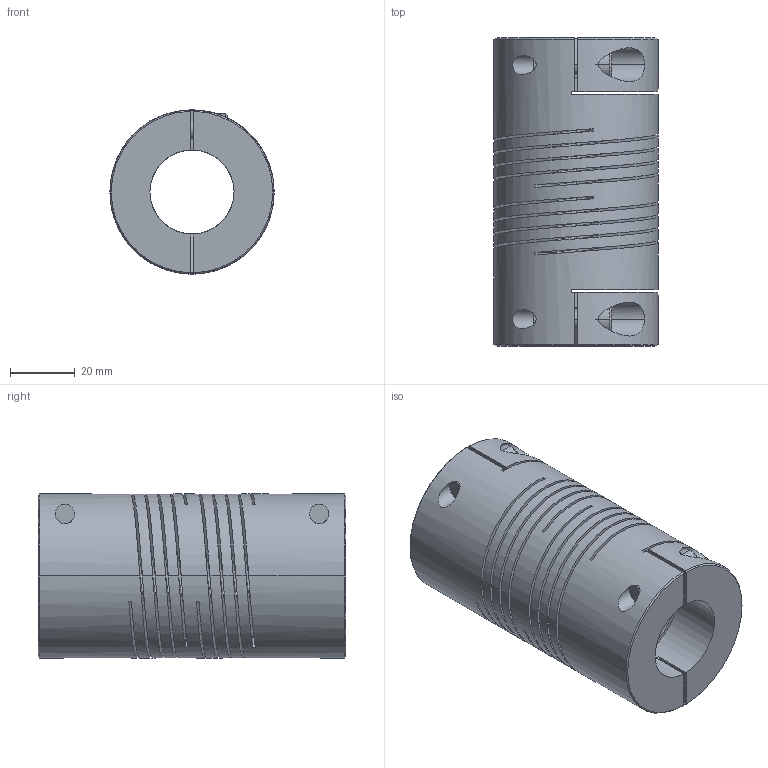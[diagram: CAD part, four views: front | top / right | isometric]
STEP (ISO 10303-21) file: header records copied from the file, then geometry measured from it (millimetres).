
FILE_DESCRIPTION((''),'2;1');
FILE_NAME('727_51','2006-12-05T',('Gary Melling'),(''),'PRO/ENGINEER BY PARAMETRIC TECHNOLOGY CORPORATION, 2006240','PRO/ENGINEER BY PARAMETRIC TECHNOLOGY CORPORATION, 2006240','');
FILE_SCHEMA(('CONFIG_CONTROL_DESIGN'));
Length unit declared in the file: millimetre
Products named in the file (1): 727_51
Bounding box: 50.8 x 95.3 x 50.79 mm (x, y, z)
Volume: 127459.7 mm3; surface area: 54999.6 mm2
Topology: 1 solids, 1 shells, 124 faces, 366 edges, 240 vertices
Faces by surface type: plane 58, cylinder 48, bspline 12, cone 6
Entity records: 6479 total; most frequent: CARTESIAN_POINT 3295, ORIENTED_EDGE 732, DIRECTION 544, EDGE_CURVE 366, VERTEX_POINT 240, VECTOR 188, LINE 188, AXIS2_PLACEMENT_3D 178
